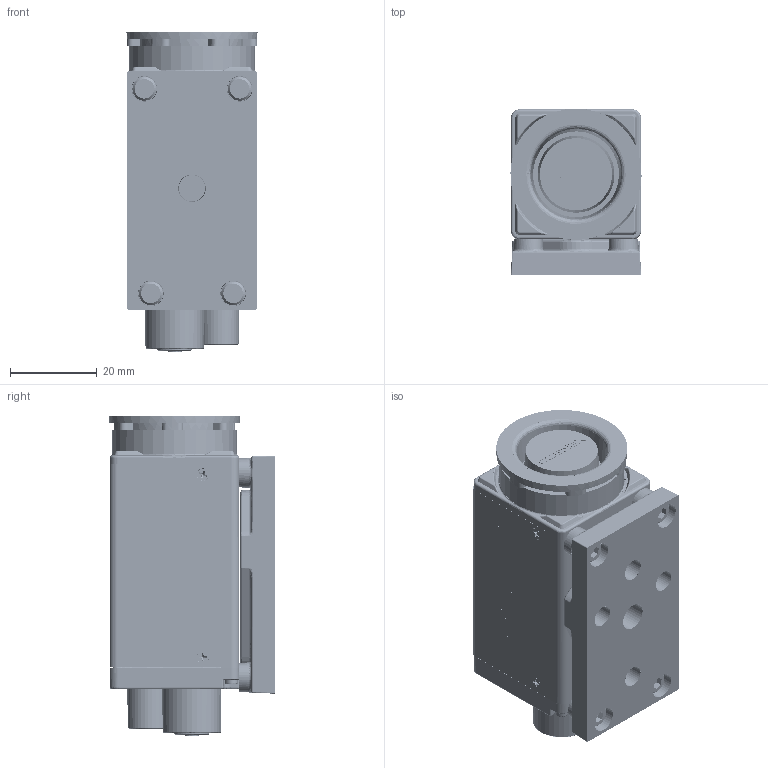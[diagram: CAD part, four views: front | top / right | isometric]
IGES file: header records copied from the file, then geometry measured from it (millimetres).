
Start section: SolidWorks IGES file using analytic representation for surfaces
Global section: file name: C:\Hardware Design\Marketing Graphics\IS010\IS010-02\IS010-02_12-26-07.IGS; native system: SolidWorks 2007; preprocessor: SolidWorks 2007; author: rgainer; date: 071226.121643; units: millimetre
Bounding box: 30.26 x 38.35 x 74 mm (x, y, z)
Surface area: 34636.1 mm2 (no closed solid volume)
Topology: 0 solids, 0 shells, 3761 faces, 27939 edges, 27820 vertices
Faces by surface type: bspline 2256, revolution 1505
